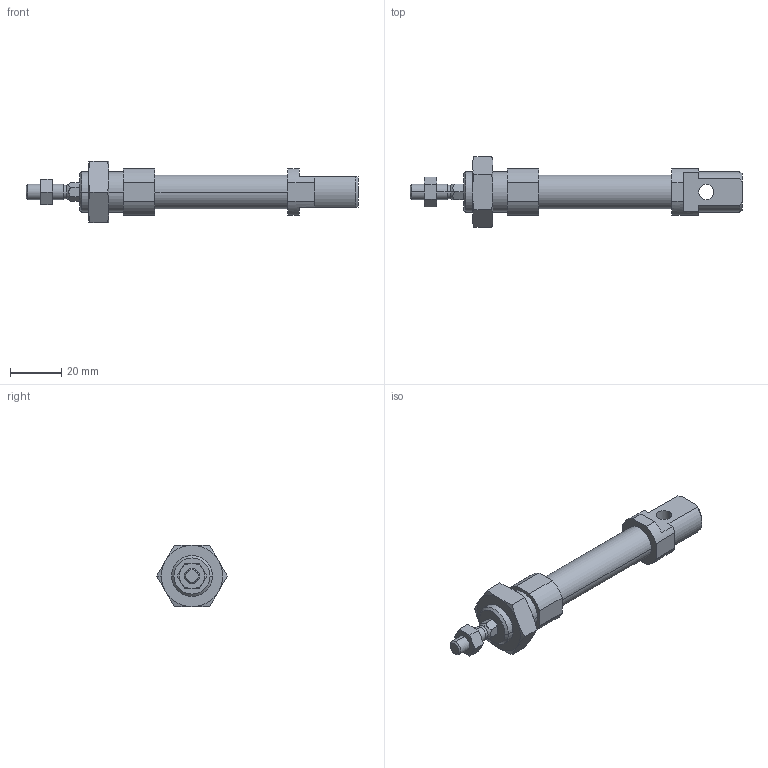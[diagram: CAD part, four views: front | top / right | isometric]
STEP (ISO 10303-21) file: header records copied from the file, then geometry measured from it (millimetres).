
FILE_DESCRIPTION (( 'STEP AP203' ), '1' );
FILE_NAME ('CSMK12-25.STEP', '2020-04-02T10:41:20', ( '' ), ( '' ), 'SwSTEP 2.0', 'SolidWorks 2019', '' );
FILE_SCHEMA (( 'CONFIG_CONTROL_DESIGN' ));
Length unit declared in the file: millimetre
Products named in the file (1): CSMK12-25
Bounding box: 130 x 27.71 x 24 mm (x, y, z)
Volume: 20758.1 mm3; surface area: 12270.3 mm2
Topology: 4 solids, 4 shells, 135 faces, 310 edges, 189 vertices
Faces by surface type: plane 53, cone 50, cylinder 32
Entity records: 4287 total; most frequent: CARTESIAN_POINT 1185, DIRECTION 636, ORIENTED_EDGE 616, EDGE_CURVE 308, AXIS2_PLACEMENT_3D 250, VERTEX_POINT 189, EDGE_LOOP 151, LINE 136
